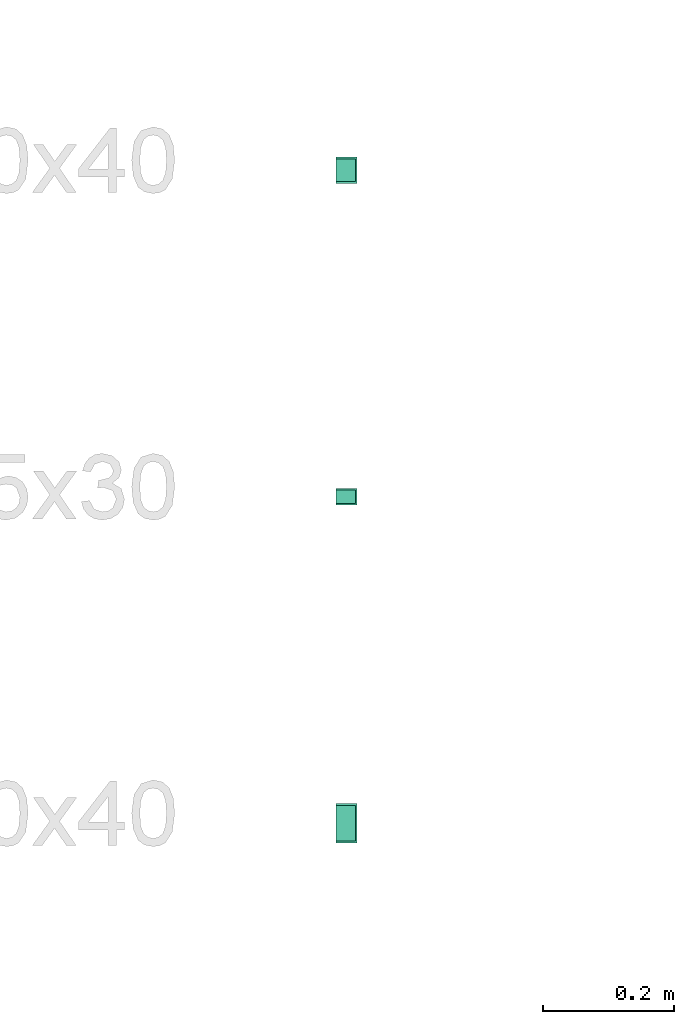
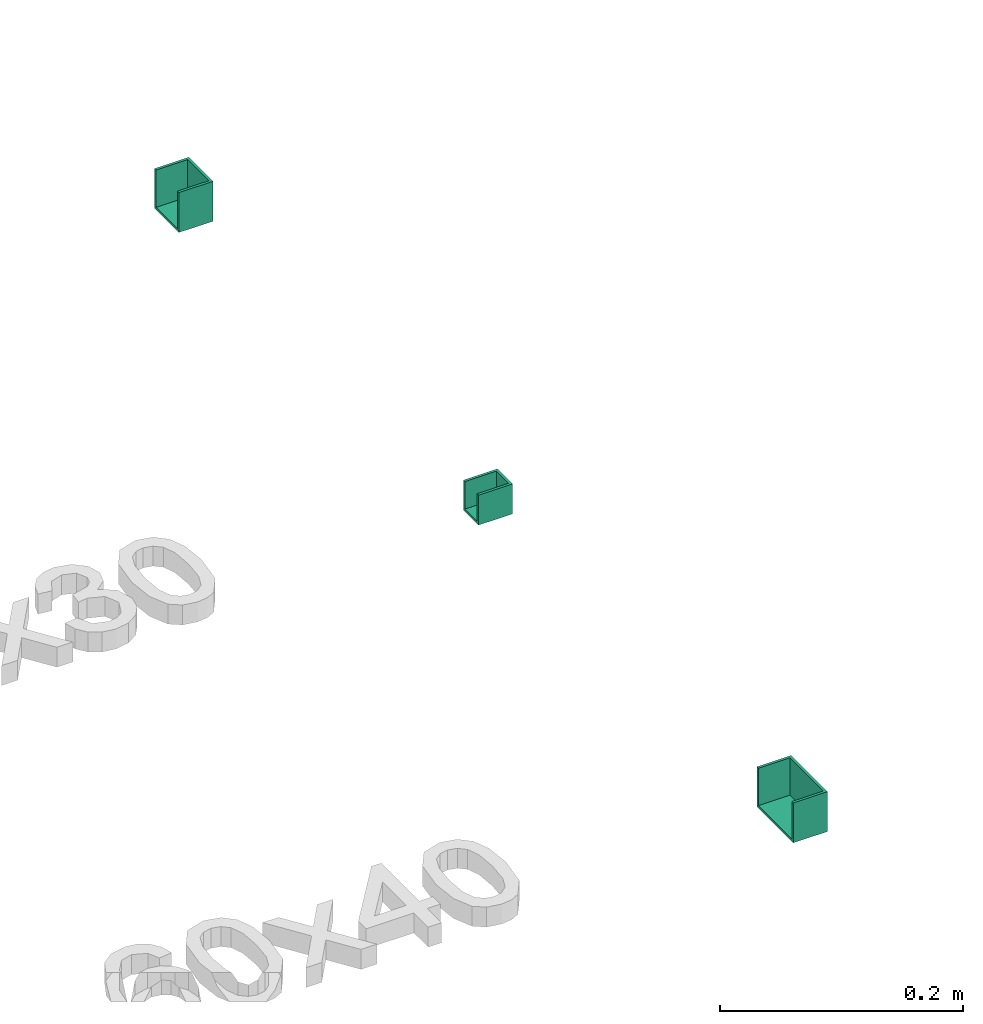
# One storey, part 4 of 71: 3 flow fittings.
"""IFC2X3 building model written with IfcOpenShell, lengths in millimetres."""

from ifc_helpers import new_model, entity, si_unit, converted_unit, derived_unit, direction, frame, frame_2d, origin, origin_2d_with_axis, place, context, subcontext, project, spatial, polyline, rectangle, outline, extrude, source, transform, mapped, material, type_object, type_shapes, element, save


model = new_model("IFC2X3")

# Units and contexts
model_context = context("Model", 3, precision=0.01, world=origin(), true_north=direction((6.12303176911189e-17, 1.0)))
body_context = subcontext(model_context, "Body", "Model", "MODEL_VIEW")
ifc_project = project(units=[si_unit("LENGTHUNIT", "METRE", prefix="MILLI"), si_unit("AREAUNIT", "SQUARE_METRE"), si_unit("VOLUMEUNIT", "CUBIC_METRE"), converted_unit("PLANEANGLEUNIT", "DEGREE", entity("IfcRatioMeasure", 0.0174532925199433), si_unit("PLANEANGLEUNIT", "RADIAN"), dimensions=[0, 0, 0, 0, 0, 0, 0]), si_unit("MASSUNIT", "GRAM", prefix="KILO"), derived_unit("MASSDENSITYUNIT", [(si_unit("MASSUNIT", "GRAM", prefix="KILO"), 1), (si_unit("LENGTHUNIT", "METRE"), -3)]), si_unit("TIMEUNIT", "SECOND"), si_unit("FREQUENCYUNIT", "HERTZ"), si_unit("THERMODYNAMICTEMPERATUREUNIT", "DEGREE_CELSIUS"), derived_unit("THERMALTRANSMITTANCEUNIT", [(si_unit("MASSUNIT", "GRAM", prefix="KILO"), 1), (si_unit("THERMODYNAMICTEMPERATUREUNIT", "KELVIN"), -1), (si_unit("TIMEUNIT", "SECOND"), -3)]), derived_unit("VOLUMETRICFLOWRATEUNIT", [(si_unit("LENGTHUNIT", "METRE"), 3), (si_unit("TIMEUNIT", "SECOND"), -1)]), si_unit("ELECTRICCURRENTUNIT", "AMPERE"), si_unit("ELECTRICVOLTAGEUNIT", "VOLT"), si_unit("POWERUNIT", "WATT"), si_unit("FORCEUNIT", "NEWTON", prefix="KILO"), si_unit("ILLUMINANCEUNIT", "LUX"), si_unit("LUMINOUSFLUXUNIT", "LUMEN"), si_unit("LUMINOUSINTENSITYUNIT", "CANDELA"), derived_unit("USERDEFINED", [(si_unit("MASSUNIT", "GRAM", prefix="KILO"), -1), (si_unit("LENGTHUNIT", "METRE"), -2), (si_unit("TIMEUNIT", "SECOND"), 3), (si_unit("LUMINOUSFLUXUNIT", "LUMEN"), 1)]), derived_unit("LINEARVELOCITYUNIT", [(si_unit("LENGTHUNIT", "METRE"), 1), (si_unit("TIMEUNIT", "SECOND"), -1)]), si_unit("PRESSUREUNIT", "PASCAL"), derived_unit("USERDEFINED", [(si_unit("LENGTHUNIT", "METRE"), -2), (si_unit("MASSUNIT", "GRAM", prefix="KILO"), 1), (si_unit("TIMEUNIT", "SECOND"), -2)])], contexts=[model_context])

# Site, building, storey
site_placement = place(None, origin())
site = spatial("IfcSite", under=ifc_project, at=site_placement, Name="Default", CompositionType="ELEMENT")
building_placement = place(site_placement, origin())
building = spatial("IfcBuilding", under=site, at=building_placement, Name="Наименование здания", CompositionType="ELEMENT")
storey_placement = place(building_placement, origin())
storey = spatial("IfcBuildingStorey", under=building, at=storey_placement, Name="Этаж 01", CompositionType="ELEMENT", Elevation=0.0)

# Flow fittings
ifc_material = material(Name="DKC_Пластик_Белый")
cable_carrier_fitting_type_1 = type_object("IfcCableCarrierFittingType", Name="Заглушка торцевая LAN_DKC", PredefinedType="NOTDEFINED", material=ifc_material)
shared_shape_1 = source(origin(), body_context, "Body", "SweptSolid", [
    extrude(outline(polyline([(-20.6250000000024, -20.0), (19.3749999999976, -20.0), (19.3749999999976, -17.5000000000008), (-18.1249999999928, -17.5000000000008), (-18.1249999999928, 17.4999999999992), (19.3749999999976, 17.4999999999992), (19.3749999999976, 20.0), (-20.6250000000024, 20.0), (-20.6250000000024, -20.0)])), frame((-32.4999999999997, 0.0, 0.625000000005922), z_axis=(1.0, 0.0, 0.0), x_axis=(0.0, 0.0, 1.0)), (0.0, 0.0, 1.0), 32.5000000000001),
    extrude(rectangle(XDim=2.50000000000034, YDim=35.0000000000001, at=origin_2d_with_axis()), frame((-1.24999999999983, 0.0, -20.0), z_axis=(0.0, 0.0, 1.0), x_axis=(-1.0, 0.0, 0.0)), (0.0, 0.0, 1.0), 40.0),
])
type_shapes(cable_carrier_fitting_type_1, [shared_shape_1])
flow_fitting_1_placement = place(storey_placement, frame((24603.0645546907, 3080.79118278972, 0.0)))
element("IfcFlowFitting", 1, at=flow_fitting_1_placement, inside=storey, type_object=cable_carrier_fitting_type_1, material=ifc_material, Name="КНС_ЗаглушкаТорцеваяLAN_ILC_DKC:Заглушка торцевая LAN_DKC", ObjectType="Заглушка торцевая LAN_DKC", context=body_context, shape_type="MappedRepresentation", body=[
    mapped(shared_shape_1, transform((0.0, 0.0, 0.0), scale=1.0)),
])
cable_carrier_fitting_type_2 = type_object("IfcCableCarrierFittingType", Name="Заглушка торцевая LAN_DKC", PredefinedType="NOTDEFINED", material=ifc_material)
shared_shape_2 = source(origin(), body_context, "Body", "SweptSolid", [
    extrude(outline(polyline([(-15.6250000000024, -12.4999999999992), (14.3749999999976, -12.4999999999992), (14.3749999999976, -10.0), (-13.1249999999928, -10.0), (-13.1249999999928, 10.0), (14.3749999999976, 10.0), (14.3749999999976, 12.5000000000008), (-15.6250000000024, 12.5000000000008), (-15.6250000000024, -12.4999999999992)])), frame((-32.4999999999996, 0.0, 0.625000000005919), z_axis=(1.0, 0.0, 0.0), x_axis=(0.0, 0.0, 1.0)), (0.0, 0.0, 1.0), 32.5000000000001),
    extrude(rectangle(XDim=2.50000000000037, YDim=20.0000000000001, at=frame_2d((-2.22044604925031e-16, 0.0), x_axis=(1.0, 0.0))), frame((-1.24999999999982, 0.0, -15.0), z_axis=(0.0, 0.0, 1.0), x_axis=(-1.0, 0.0, 0.0)), (0.0, 0.0, 1.0), 30.0),
])
type_shapes(cable_carrier_fitting_type_2, [shared_shape_2])
flow_fitting_2_placement = place(storey_placement, frame((24603.0645546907, 2580.79118278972, 0.0)))
element("IfcFlowFitting", 2, at=flow_fitting_2_placement, inside=storey, type_object=cable_carrier_fitting_type_2, material=ifc_material, Name="КНС_ЗаглушкаТорцеваяLAN_ILC_DKC:Заглушка торцевая LAN_DKC", ObjectType="Заглушка торцевая LAN_DKC", context=body_context, shape_type="MappedRepresentation", body=[
    mapped(shared_shape_2, transform((0.0, 0.0, 0.0), scale=1.0)),
])
cable_carrier_fitting_type_3 = type_object("IfcCableCarrierFittingType", Name="Заглушка торцевая LAN_DKC", PredefinedType="NOTDEFINED", material=ifc_material)
shared_shape_3 = source(origin(), body_context, "Body", "SweptSolid", [
    extrude(outline(polyline([(-20.6250000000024, -30.0), (19.3749999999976, -30.0), (19.3749999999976, -27.5000000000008), (-18.1249999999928, -27.5000000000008), (-18.1249999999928, 27.4999999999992), (19.3749999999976, 27.4999999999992), (19.3749999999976, 30.0), (-20.6250000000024, 30.0), (-20.6250000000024, -30.0)])), frame((-32.4999999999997, 0.0, 0.625000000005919), z_axis=(1.0, 0.0, 0.0), x_axis=(0.0, 0.0, 1.0)), (0.0, 0.0, 1.0), 32.5000000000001),
    extrude(rectangle(XDim=2.50000000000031, YDim=55.0000000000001, at=frame_2d((2.22044604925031e-16, 0.0), x_axis=(1.0, 0.0))), frame((-1.24999999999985, 0.0, -20.0), z_axis=(0.0, 0.0, 1.0), x_axis=(-1.0, 0.0, 0.0)), (0.0, 0.0, 1.0), 40.0),
])
type_shapes(cable_carrier_fitting_type_3, [shared_shape_3])
flow_fitting_3_placement = place(storey_placement, frame((24603.0645546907, 2080.79118278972, 0.0)))
element("IfcFlowFitting", 3, at=flow_fitting_3_placement, inside=storey, type_object=cable_carrier_fitting_type_3, material=ifc_material, Name="КНС_ЗаглушкаТорцеваяLAN_ILC_DKC:Заглушка торцевая LAN_DKC", ObjectType="Заглушка торцевая LAN_DKC", context=body_context, shape_type="MappedRepresentation", body=[
    mapped(shared_shape_3, transform((0.0, 0.0, 0.0), scale=1.0)),
])

save(model, "model.ifc")
